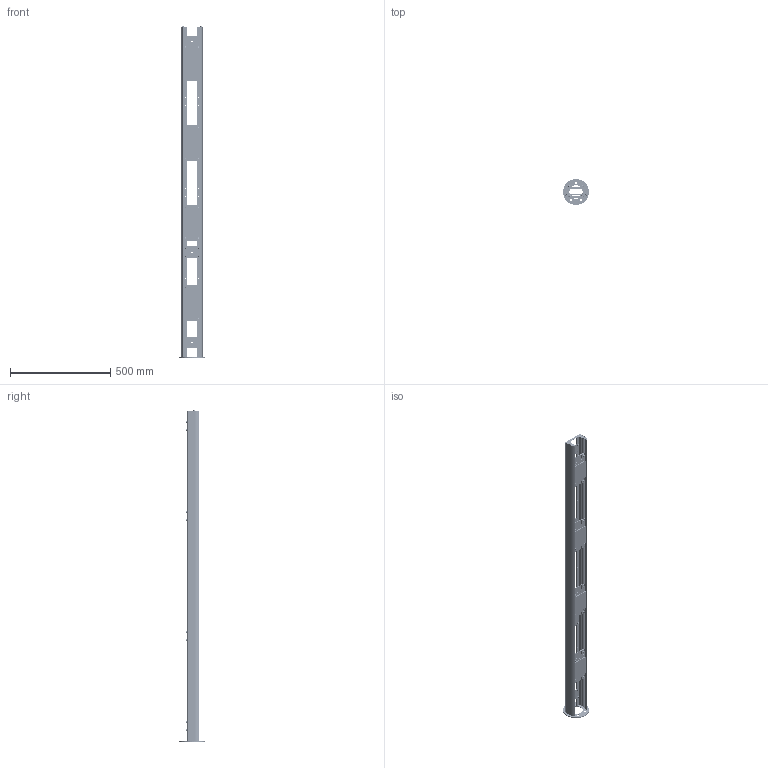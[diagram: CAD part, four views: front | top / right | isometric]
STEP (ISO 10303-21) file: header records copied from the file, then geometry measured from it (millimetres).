
FILE_DESCRIPTION(/* description */ (''),/* implementation_level */ '2;1');
FILE_NAME(/* name */ '0004A__4_INDIPENDENT_MIRRORS_1650mm.stp',/* time_stamp */ '2025-11-26T15:31:52+01:00',/* author */ (''),/* organization */ (''),/* preprocessor_version */ 'ST-DEVELOPER v20',/* originating_system */ 'SIEMENS PLM Software NX2412.4001',/* authorisation */ '');
FILE_SCHEMA (('AP203_CONFIGURATION_CONTROLLED_3D_DESIGN_OF_MECHANICAL_PARTS_AND_ASSEMBLIES_MIM_LF { 1 0 10303 403 2 1 2}'));
Products named in the file (1): AS007806_objects
Bounding box: 130 x 130 x 1658.25 mm (x, y, z)
Volume: 6281871.4 mm3; surface area: 6411555.1 mm2
Topology: 274 solids, 274 shells, 10425 faces, 28066 edges, 18273 vertices
Faces by surface type: plane 5472, cylinder 2769, cone 1970, torus 156, bspline 54, sphere 4
Full cylindrical faces by diameter (mm): 0.1 x4, 3.3 x12, 3.838 x12, 4.2 x32, 4.3 x12, 4.826 x256, 5 x312, 5.2 x32, 5.25 x2, 5.3 x16, 5.5 x64, 5.6 x16, 5.795 x28, 7 x44, 7.2 x4, 8.5 x48, 9 x28, 10 x16, 12 x7, 15 x16, 68 x1, 130 x1
Entity records: 415858 total; most frequent: CARTESIAN_POINT 154668, DIRECTION 56088, ORIENTED_EDGE 51472, EDGE_CURVE 25736, AXIS2_PLACEMENT_3D 21586, VERTEX_POINT 17324, LINE 12916, VECTOR 12916
